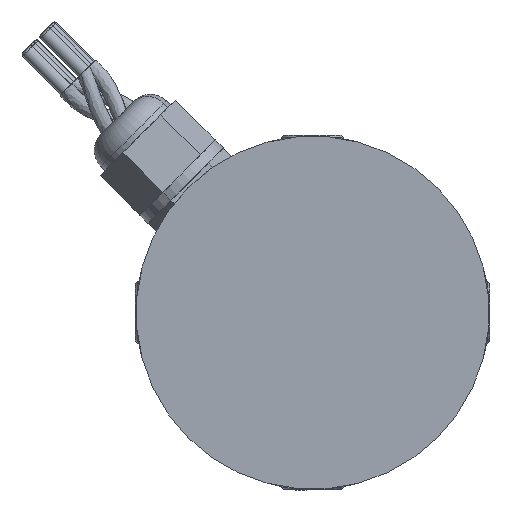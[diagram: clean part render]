
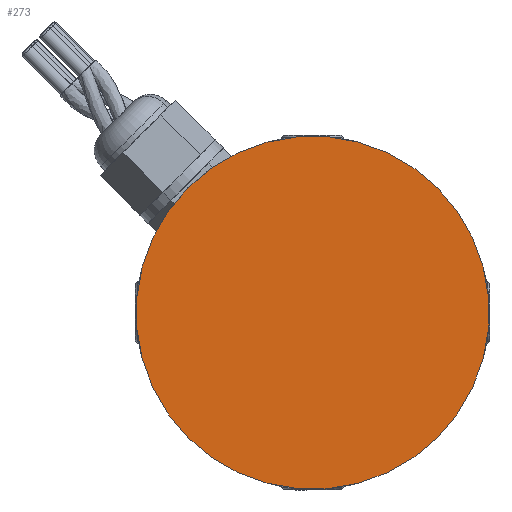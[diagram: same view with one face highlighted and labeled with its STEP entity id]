
A CAD part, left-side view. The second image highlights one B-rep face of the part: STEP entity #273.
In plain terms, the highlighted planar face has unit normal (-1, 0, 0).
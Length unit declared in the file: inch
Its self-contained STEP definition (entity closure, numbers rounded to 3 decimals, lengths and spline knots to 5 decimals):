
#273 = ADVANCED_FACE ( 'NONE', ( #2829 ), #5548, .F. ) ;
#391 = CARTESIAN_POINT ( 'NONE',  ( -2.35763, 2.69409, 5.47533 ) ) ;
#891 = DIRECTION ( 'NONE',  ( 0., -0.707, 0.707 ) ) ;
#957 = CARTESIAN_POINT ( 'NONE',  ( -2.35763, 2.69409, 5.47533 ) ) ;
#2012 = VERTEX_POINT ( 'NONE', #8760 ) ;
#2581 = AXIS2_PLACEMENT_3D ( 'NONE', #6257, #4007, #9480 ) ;
#2656 = EDGE_LOOP ( 'NONE', ( #4938, #5798 ) ) ;
#2829 = FACE_OUTER_BOUND ( 'NONE', #2656, .T. ) ;
#4007 = DIRECTION ( 'NONE',  ( 1., 0., 0. ) ) ;
#4938 = ORIENTED_EDGE ( 'NONE', *, *, #9399, .F. ) ;
#4981 = DIRECTION ( 'NONE',  ( 1., 0., 0. ) ) ;
#5230 = VERTEX_POINT ( 'NONE', #9878 ) ;
#5548 = PLANE ( 'NONE',  #2581 ) ;
#5798 = ORIENTED_EDGE ( 'NONE', *, *, #7821, .F. ) ;
#6257 = CARTESIAN_POINT ( 'NONE',  ( -2.35763, 2.69409, 5.47533 ) ) ;
#7387 = CIRCLE ( 'NONE', #8237, 1.5624 ) ;
#7498 = AXIS2_PLACEMENT_3D ( 'NONE', #391, #4981, #7970 ) ;
#7821 = EDGE_CURVE ( 'NONE', #2012, #5230, #7387, .T. ) ;
#7970 = DIRECTION ( 'NONE',  ( 0., -0.707, 0.707 ) ) ;
#8237 = AXIS2_PLACEMENT_3D ( 'NONE', #957, #9348, #891 ) ;
#8760 = CARTESIAN_POINT ( 'NONE',  ( -2.35763, 1.58931, 6.58011 ) ) ;
#9348 = DIRECTION ( 'NONE',  ( 1., 0., 0. ) ) ;
#9359 = CIRCLE ( 'NONE', #7498, 1.5624 ) ;
#9399 = EDGE_CURVE ( 'NONE', #5230, #2012, #9359, .T. ) ;
#9480 = DIRECTION ( 'NONE',  ( 0., -0.707, 0.707 ) ) ;
#9878 = CARTESIAN_POINT ( 'NONE',  ( -2.35763, 3.79887, 4.37054 ) ) ;
